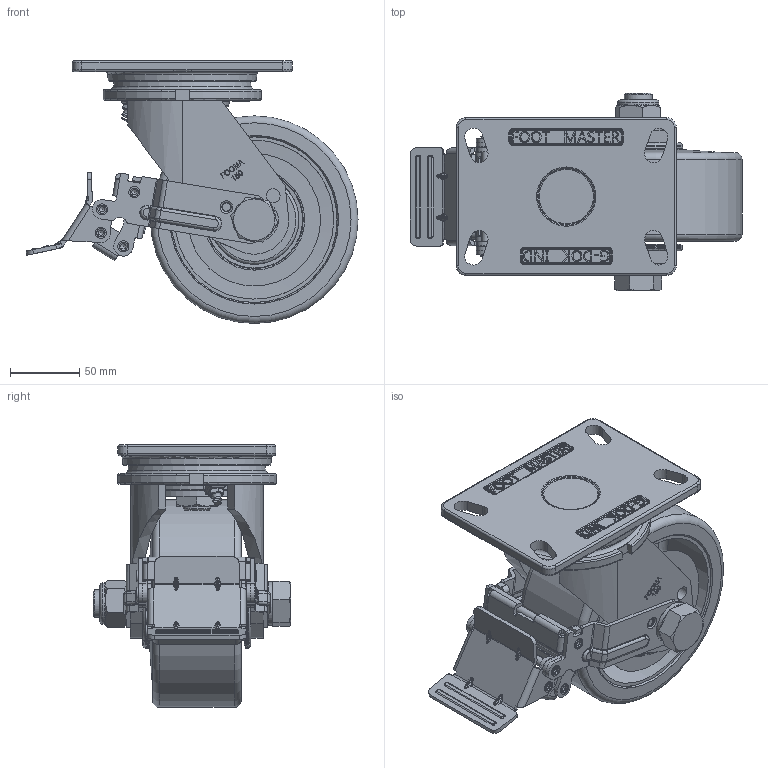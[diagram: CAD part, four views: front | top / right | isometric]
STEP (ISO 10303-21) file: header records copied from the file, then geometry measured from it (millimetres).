
FILE_DESCRIPTION(/* description */ (''),/* implementation_level */ '2;1');
FILE_NAME(/* name */ '\\192.168.10.38\지덕공유\1.기술연구소\손동원\GF-SERIES\3D\GF-150-BSF-MCD-FRN.stp',/* time_stamp */ '2023-07-25T14:02:16+09:00',/* author */ ('admin'),/* organization */ (''),/* preprocessor_version */ 'ST-DEVELOPER v18.1',/* originating_system */ 'Autodesk Inventor 2021',/* authorisation */ '');
FILE_SCHEMA (('AUTOMOTIVE_DESIGN { 1 0 10303 214 3 1 1 }'));
Length unit declared in the file: millimetre
Products named in the file (1): GF-150-BSF-MCD-FRN
Bounding box: 239.93 x 143 x 190 mm (x, y, z)
Volume: 1783243.4 mm3; surface area: 239106 mm2
Topology: 7 solids, 11 shells, 2023 faces, 5375 edges, 3418 vertices
Faces by surface type: plane 706, bspline 549, cylinder 543, torus 140, cone 69, sphere 16
Full cylindrical faces by diameter (mm): 4 x4, 6 x5, 6.2 x18, 7 x2, 8 x8, 9.7 x2, 10 x4, 20 x4, 20.2 x4, 24.9 x2, 30 x1, 34 x2, 43 x2, 59 x1, 60.9 x2, 64.519 x2, 150 x1
Entity records: 73695 total; most frequent: CARTESIAN_POINT 25747, ORIENTED_EDGE 10698, DIRECTION 8963, EDGE_CURVE 5349, VERTEX_POINT 3420, AXIS2_PLACEMENT_3D 3185, LINE 2593, VECTOR 2593
